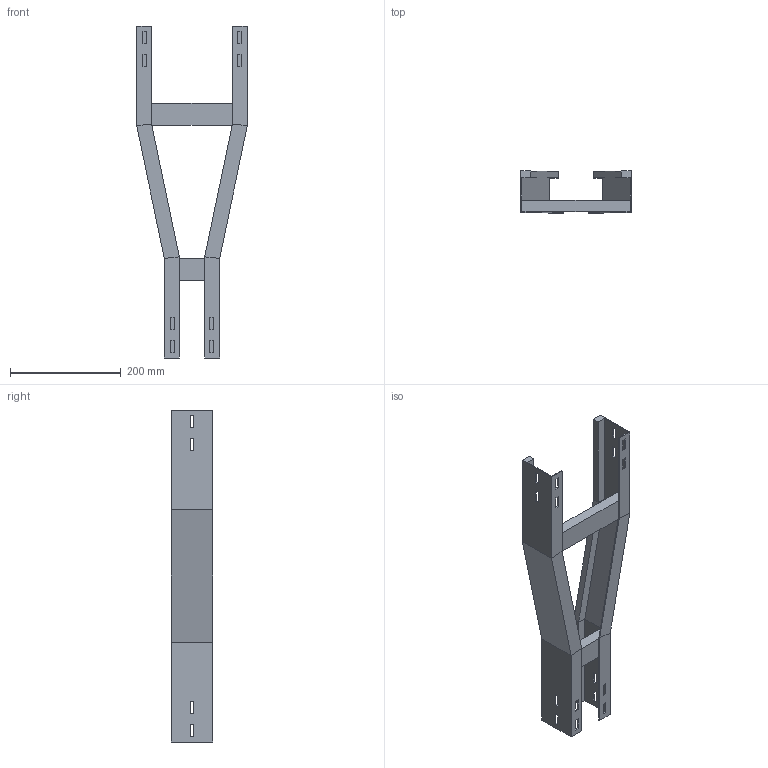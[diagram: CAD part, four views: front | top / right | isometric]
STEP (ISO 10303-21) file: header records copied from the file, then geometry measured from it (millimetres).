
FILE_DESCRIPTION (( 'STEP AP214' ), '1' );
FILE_NAME ('B2X20B1C200XX.step', '2025-09-02T17:13:32', ( '' ), ( '' ), 'SwSTEP 2.0', 'SolidWorks 2023', '' );
FILE_SCHEMA (( 'AUTOMOTIVE_DESIGN' ));
Length unit declared in the file: millimetre
Products named in the file (4): TRAVERSINO_200; B2X20B1C200XX; SPONDA RID. CENTRALE 200-100_H75; TRAVERSINO_100
Assembly tree (3 placements, depth 2):
  B2X20B1C200XX
    SPONDA RID. CENTRALE 200-100_H75
    TRAVERSINO_100
    TRAVERSINO_200
Bounding box: 200 x 75 x 600 mm (x, y, z)
Volume: 706032 mm3; surface area: 322700.2 mm2
Topology: 4 solids, 4 shells, 128 faces, 328 edges, 208 vertices
Faces by surface type: plane 128
Entity records: 3950 total; most frequent: CARTESIAN_POINT 670, ORIENTED_EDGE 656, DIRECTION 596, VECTOR 328, LINE 328, EDGE_CURVE 328, VERTEX_POINT 208, EDGE_LOOP 160
